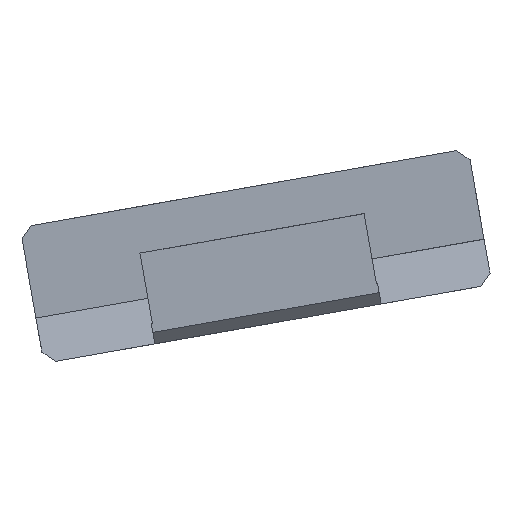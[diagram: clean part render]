
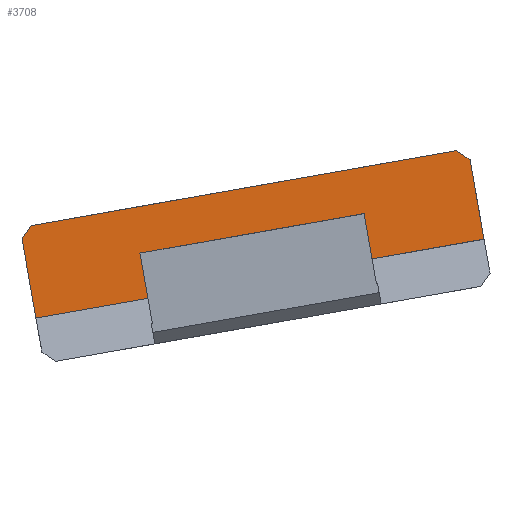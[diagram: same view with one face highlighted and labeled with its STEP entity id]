
A CAD part, left-side view. The second image highlights one B-rep face of the part: STEP entity #3708.
In plain terms, the highlighted planar face has unit normal (-1, 0, 0).
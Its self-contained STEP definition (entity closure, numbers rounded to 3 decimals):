
#196=PLANE('',#3998);
#384=FACE_OUTER_BOUND('',#593,.T.);
#593=EDGE_LOOP('',(#3305,#3306,#3307,#3308,#3309,#3310,#3311,#3312,#3313,
#3314));
#699=LINE('',#5158,#1097);
#792=LINE('',#5389,#1190);
#801=LINE('',#5406,#1199);
#976=LINE('',#6215,#1374);
#979=LINE('',#6221,#1377);
#980=LINE('',#6224,#1378);
#981=LINE('',#6226,#1379);
#982=LINE('',#6228,#1380);
#983=LINE('',#6230,#1381);
#984=LINE('',#6231,#1382);
#1097=VECTOR('',#4171,10.);
#1190=VECTOR('',#4310,10.);
#1199=VECTOR('',#4325,10.);
#1374=VECTOR('',#4832,10.);
#1377=VECTOR('',#4837,10.);
#1378=VECTOR('',#4840,10.);
#1379=VECTOR('',#4841,10.);
#1380=VECTOR('',#4842,10.);
#1381=VECTOR('',#4843,10.);
#1382=VECTOR('',#4844,10.);
#1620=VERTEX_POINT('',#5155);
#1621=VERTEX_POINT('',#5157);
#1710=VERTEX_POINT('',#5387);
#1715=VERTEX_POINT('',#5404);
#1880=VERTEX_POINT('',#6213);
#1882=VERTEX_POINT('',#6219);
#1883=VERTEX_POINT('',#6223);
#1884=VERTEX_POINT('',#6225);
#1885=VERTEX_POINT('',#6227);
#1886=VERTEX_POINT('',#6229);
#1987=EDGE_CURVE('',#1620,#1621,#699,.T.);
#2090=EDGE_CURVE('',#1710,#1620,#792,.T.);
#2099=EDGE_CURVE('',#1715,#1710,#801,.T.);
#2379=EDGE_CURVE('',#1880,#1715,#976,.T.);
#2382=EDGE_CURVE('',#1882,#1880,#979,.T.);
#2383=EDGE_CURVE('',#1883,#1882,#980,.T.);
#2384=EDGE_CURVE('',#1884,#1883,#981,.T.);
#2385=EDGE_CURVE('',#1885,#1884,#982,.T.);
#2386=EDGE_CURVE('',#1886,#1885,#983,.T.);
#2387=EDGE_CURVE('',#1621,#1886,#984,.T.);
#3305=ORIENTED_EDGE('',*,*,#2090,.F.);
#3306=ORIENTED_EDGE('',*,*,#2099,.F.);
#3307=ORIENTED_EDGE('',*,*,#2379,.F.);
#3308=ORIENTED_EDGE('',*,*,#2382,.F.);
#3309=ORIENTED_EDGE('',*,*,#2383,.F.);
#3310=ORIENTED_EDGE('',*,*,#2384,.F.);
#3311=ORIENTED_EDGE('',*,*,#2385,.F.);
#3312=ORIENTED_EDGE('',*,*,#2386,.F.);
#3313=ORIENTED_EDGE('',*,*,#2387,.F.);
#3314=ORIENTED_EDGE('',*,*,#1987,.F.);
#3708=ADVANCED_FACE('',(#384),#196,.T.);
#3998=AXIS2_PLACEMENT_3D('',#6222,#4838,#4839);
#4171=DIRECTION('',(0.,-0.985,0.174));
#4310=DIRECTION('',(0.,-0.574,0.819));
#4325=DIRECTION('',(0.,0.174,0.985));
#4832=DIRECTION('',(0.,0.985,-0.174));
#4837=DIRECTION('',(0.,-0.174,-0.985));
#4838=DIRECTION('center_axis',(-1.,0.,0.));
#4839=DIRECTION('ref_axis',(0.,0.,1.));
#4840=DIRECTION('',(0.,0.985,-0.174));
#4841=DIRECTION('',(0.,0.174,0.985));
#4842=DIRECTION('',(0.,0.985,-0.174));
#4843=DIRECTION('',(0.,-0.174,-0.985));
#4844=DIRECTION('',(0.,-0.819,-0.574));
#5155=CARTESIAN_POINT('',(70.926,-279.573,1.39));
#5157=CARTESIAN_POINT('',(70.926,-316.602,7.919));
#5158=CARTESIAN_POINT('',(70.926,-314.337,7.519));
#5387=CARTESIAN_POINT('',(70.926,-278.762,0.231));
#5389=CARTESIAN_POINT('',(70.926,-284.764,8.804));
#5404=CARTESIAN_POINT('',(70.926,-279.977,-6.662));
#5406=CARTESIAN_POINT('',(70.926,-279.63,-4.693));
#6213=CARTESIAN_POINT('',(70.926,-289.727,-4.943));
#6215=CARTESIAN_POINT('',(70.926,-299.477,-3.224));
#6219=CARTESIAN_POINT('',(70.926,-289.032,-1.004));
#6221=CARTESIAN_POINT('',(70.926,-290.115,-7.141));
#6222=CARTESIAN_POINT('Origin',(70.926,-319.67,-3.725));
#6223=CARTESIAN_POINT('',(70.926,-308.532,2.434));
#6224=CARTESIAN_POINT('',(70.926,-313.456,3.302));
#6225=CARTESIAN_POINT('',(70.926,-309.226,-1.505));
#6226=CARTESIAN_POINT('',(70.926,-309.4,-2.49));
#6227=CARTESIAN_POINT('',(70.926,-318.976,0.214));
#6228=CARTESIAN_POINT('',(70.926,-318.976,0.214));
#6229=CARTESIAN_POINT('',(70.926,-317.76,7.108));
#6230=CARTESIAN_POINT('',(70.926,-318.629,2.184));
#6231=CARTESIAN_POINT('',(70.926,-313.184,10.312));
